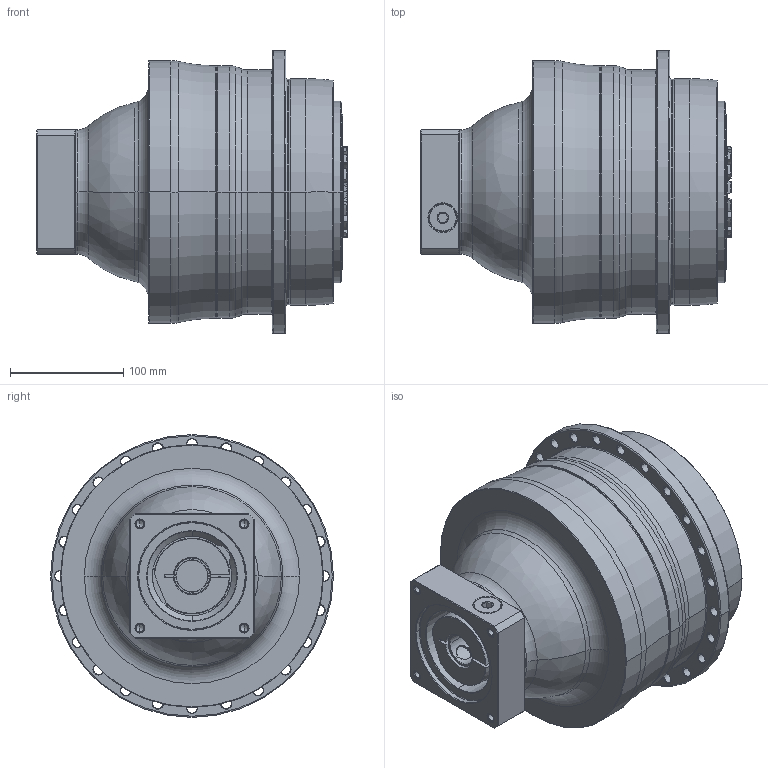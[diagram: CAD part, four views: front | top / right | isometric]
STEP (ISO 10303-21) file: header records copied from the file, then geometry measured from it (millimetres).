
FILE_DESCRIPTION((''),'2;1');
FILE_NAME('APC200_3ST_28-P0409610201_ASM','2018-07-05T',('d01226'),(''),'PRO/ENGINEER BY PARAMETRIC TECHNOLOGY CORPORATION, 2008410','PRO/ENGINEER BY PARAMETRIC TECHNOLOGY CORPORATION, 2008410','');
FILE_SCHEMA(('CONFIG_CONTROL_DESIGN'));
Length unit declared in the file: millimetre
Products named in the file (9): P0278601003; P0359660103; P1366600201; P0503600010; P0912402001; P1211600001; P0409610201; 21711418017; APC200_3ST_28-P0409610201_ASM
Assembly tree (8 placements, depth 2):
  APC200_3ST_28-P0409610201_ASM
    P0278601003
    P0359660103
    P1366600201
    P0503600010
    P0912402001
    P1211600001
    P0409610201
    21711418017
Bounding box: 274.1 x 249.5 x 249.5 mm (x, y, z)
Volume: 7623132 mm3; surface area: 523581.6 mm2
Topology: 9 solids, 19 shells, 669 faces, 1609 edges, 977 vertices
Faces by surface type: cone 221, cylinder 207, plane 118, torus 107, bspline 16
Entity records: 24926 total; most frequent: CARTESIAN_POINT 8922, DIRECTION 3589, ORIENTED_EDGE 3140, EDGE_CURVE 1591, AXIS2_PLACEMENT_3D 1559, VERTEX_POINT 977, CIRCLE 879, EDGE_LOOP 768
